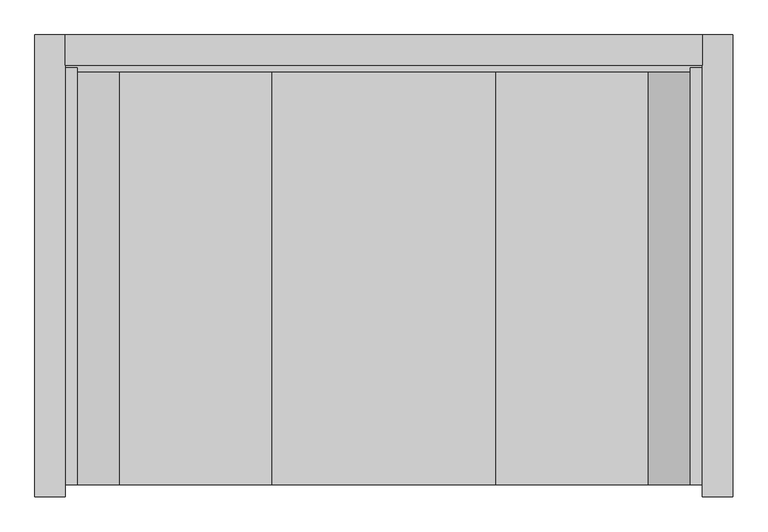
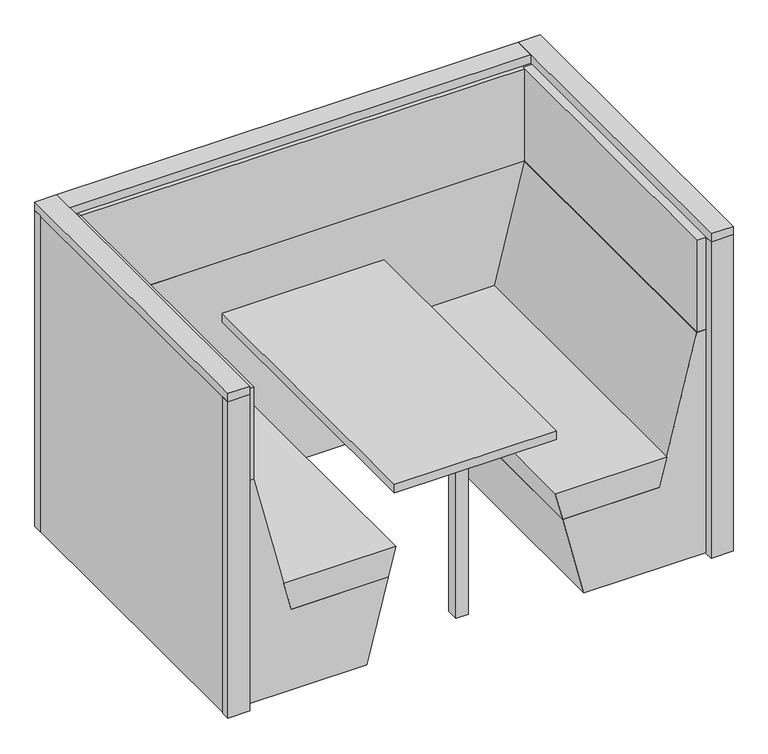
"""IFC4 building model written with IfcOpenShell, lengths in millimetres: furniture geometry, Furniture_WorkPod_Spacestor_RailwayCarriage : Banquette."""

from ifc_helpers import new_model, si_unit, point, frame, frame_2d, origin, origin_with_axes, place, context, project, spatial, polyline, circle_curve, trimmed, segment, composite_curve, outline, extrude, source, transform, mapped, element, save


def furniture_c9d6e980(model_context):
    return source(origin(), model_context, "Body", "SweptSolid", [
        extrude(outline(composite_curve([segment(trimmed(circle_curve(frame_2d((988.5, -1002.0)), 15.0), [point((973.5, -1002.0))], [point((1003.5, -1002.0))], False, "CARTESIAN"), True, "CONTINUOUS"), segment(trimmed(circle_curve(frame_2d((988.5, -1002.0)), 15.0), [point((1003.5, -1002.0))], [point((973.5, -1002.0))], False, "CARTESIAN"), True, "CONTINUOUS")], self_intersect=False)), origin_with_axes(), (0.0, 0.0, 1.0), 15.0),
        extrude(outline(composite_curve([segment(trimmed(circle_curve(frame_2d((-988.5, -1002.0)), 15.0), [point((-1003.5, -1002.0))], [point((-973.5, -1002.0))], False, "CARTESIAN"), True, "CONTINUOUS"), segment(trimmed(circle_curve(frame_2d((-988.5, -1002.0)), 15.0), [point((-973.5, -1002.0))], [point((-1003.5, -1002.0))], False, "CARTESIAN"), True, "CONTINUOUS")], self_intersect=False)), origin_with_axes(), (0.0, 0.0, 1.0), 15.0),
        extrude(outline(composite_curve([segment(trimmed(circle_curve(frame_2d((988.5, -167.0)), 15.0), [point((973.5, -167.0))], [point((1003.5, -167.0))], False, "CARTESIAN"), True, "CONTINUOUS"), segment(trimmed(circle_curve(frame_2d((988.5, -167.0)), 15.0), [point((1003.5, -167.0))], [point((973.5, -167.0))], False, "CARTESIAN"), True, "CONTINUOUS")], self_intersect=False)), origin_with_axes(), (0.0, 0.0, 1.0), 15.0),
        extrude(outline(composite_curve([segment(trimmed(circle_curve(frame_2d((-988.5, -167.0)), 15.0), [point((-1003.5, -167.0))], [point((-973.5, -167.0))], False, "CARTESIAN"), True, "CONTINUOUS"), segment(trimmed(circle_curve(frame_2d((-988.5, -167.0)), 15.0), [point((-973.5, -167.0))], [point((-1003.5, -167.0))], False, "CARTESIAN"), True, "CONTINUOUS")], self_intersect=False)), origin_with_axes(), (0.0, 0.0, 1.0), 15.0),
        extrude(outline(polyline([(-940.0, 61.0), (-1030.0, 61.0), (-1030.0, 97.0), (-940.0, 97.0), (-940.0, 61.0)])), frame((0.0, 0.0, 3.0), z_axis=(0.0, 0.0, 1.0), x_axis=(1.0, 0.0, 0.0)), (0.0, 0.0, 1.0), 1364.0),
        extrude(outline(polyline([(1030.0, 61.0), (940.0, 61.0), (940.0, 97.0), (1030.0, 97.0), (1030.0, 61.0)])), frame((0.0, 0.0, 3.0), z_axis=(0.0, 0.0, 1.0), x_axis=(1.0, 0.0, 0.0)), (0.0, 0.0, 1.0), 1364.0),
        extrude(outline(polyline([(-940.0, -1266.0), (-1030.0, -1266.0), (-1030.0, -1230.0), (-940.0, -1230.0), (-940.0, -1266.0)])), frame((0.0, 0.0, 3.0), z_axis=(0.0, 0.0, 1.0), x_axis=(1.0, 0.0, 0.0)), (0.0, 0.0, 1.0), 1364.0),
        extrude(outline(polyline([(1030.0, -1266.0), (940.0, -1266.0), (940.0, -1230.0), (1030.0, -1230.0), (1030.0, -1266.0)])), frame((0.0, 0.0, 3.0), z_axis=(0.0, 0.0, 1.0), x_axis=(1.0, 0.0, 0.0)), (0.0, 0.0, 1.0), 1364.0),
        extrude(outline(polyline([(-904.5, -1230.0), (-966.5, -1230.0), (-966.5, 0.0), (-904.5, 0.0), (-904.5, -1230.0)])), frame((0.0, 0.0, 969.0), z_axis=(0.0, 0.0, 1.0), x_axis=(1.0, 0.0, 0.0)), (0.0, 0.0, 1.0), 398.0),
        extrude(outline(polyline([(966.5, -1230.0), (904.5, -1230.0), (904.5, 0.0), (966.5, 0.0), (966.5, -1230.0)])), frame((0.0, 0.0, 969.0), z_axis=(0.0, 0.0, 1.0), x_axis=(1.0, 0.0, 0.0)), (0.0, 0.0, 1.0), 398.0),
        extrude(outline(polyline([(354.0, -750.5348655), (354.0, -355.6348655), (475.0, -325.4661771), (475.0, -780.6245423), (354.0, -750.5348655)])), frame((0.0, -1230.0, 0.0), z_axis=(0.0, 1.0, 0.0), x_axis=(0.0, 0.0, 1.0)), (0.0, 0.0, 1.0), 1230.0),
        extrude(outline(polyline([(354.0, 750.5348655), (475.0, 780.6245423), (475.0, 325.4661771), (354.0, 355.6348655), (354.0, 750.5348655)])), frame((0.0, -1230.0, 0.0), z_axis=(0.0, 1.0, 0.0), x_axis=(0.0, 0.0, 1.0)), (0.0, 0.0, 1.0), 1230.0),
        extrude(outline(polyline([(969.0, -903.47), (969.0, -967.0), (6.0, -967.0), (6.0, -442.4010105), (354.0, -355.6348655), (354.0, -750.5348655), (969.0, -903.47)])), frame((0.0, -1230.0, 0.0), z_axis=(0.0, 1.0, 0.0), x_axis=(0.0, 0.0, 1.0)), (0.0, 0.0, 1.0), 1230.0),
        extrude(outline(polyline([(969.0, 903.47), (354.0, 750.5348655), (354.0, 355.6348655), (6.0, 442.4010105), (6.0, 967.0), (969.0, 967.0), (969.0, 903.47)])), frame((0.0, -1230.0, 0.0), z_axis=(0.0, 1.0, 0.0), x_axis=(0.0, 0.0, 1.0)), (0.0, 0.0, 1.0), 1230.0),
        extrude(outline(polyline([(25.0, -1085.0), (25.0, -1135.0), (-25.0, -1135.0), (-25.0, -1085.0), (25.0, -1085.0)])), frame((0.0, 0.0, 1.5), z_axis=(0.0, 0.0, 1.0), x_axis=(1.0, 0.0, 0.0)), (0.0, 0.0, 1.0), 705.0),
        extrude(outline(polyline([(330.0, 0.0), (330.0, -1230.0), (-330.0, -1230.0), (-330.0, 0.0), (330.0, 0.0)])), frame((0.0, 0.0, 708.0), z_axis=(0.0, 0.0, 1.0), x_axis=(1.0, 0.0, 0.0)), (0.0, 0.0, 1.0), 36.0),
        extrude(outline(polyline([(940.0, 97.0), (940.0, 7.0), (-940.0, 7.0), (-940.0, 97.0), (940.0, 97.0)])), frame((0.0, 0.0, 1367.0), z_axis=(0.0, 0.0, 1.0), x_axis=(1.0, 0.0, 0.0)), (0.0, 0.0, 1.0), 36.0),
        extrude(outline(polyline([(1030.0, -1266.0), (940.0, -1266.0), (940.0, 97.0), (1030.0, 97.0), (1030.0, -1266.0)])), frame((0.0, 0.0, 1367.0), z_axis=(0.0, 0.0, 1.0), x_axis=(1.0, 0.0, 0.0)), (0.0, 0.0, 1.0), 36.0),
        extrude(outline(polyline([(-940.0, -1266.0), (-1030.0, -1266.0), (-1030.0, 97.0), (-940.0, 97.0), (-940.0, -1266.0)])), frame((0.0, 0.0, 1367.0), z_axis=(0.0, 0.0, 1.0), x_axis=(1.0, 0.0, 0.0)), (0.0, 0.0, 1.0), 36.0),
        extrude(outline(polyline([(940.0, 61.0), (-940.0, 61.0), (-940.0, 79.0), (940.0, 79.0), (940.0, 61.0)])), frame((0.0, 0.0, 3.0), z_axis=(0.0, 0.0, 1.0), x_axis=(1.0, 0.0, 0.0)), (0.0, 0.0, 1.0), 1364.0),
        extrude(outline(polyline([(-967.5, 6.0), (967.5, 6.0), (967.5, -12.0), (-967.5, -12.0), (-967.5, 6.0)])), frame((0.0, 0.0, 3.0), z_axis=(0.0, 0.0, 1.0), x_axis=(1.0, 0.0, 0.0)), (0.0, 0.0, 1.0), 966.0),
        extrude(outline(polyline([(-967.5, 20.0), (967.5, 20.0), (967.5, -12.0), (-967.5, -12.0), (-967.5, 20.0)])), frame((0.0, 0.0, 969.0), z_axis=(0.0, 0.0, 1.0), x_axis=(1.0, 0.0, 0.0)), (0.0, 0.0, 1.0), 398.0),
        extrude(outline(polyline([(-1010.0, -1230.0), (-1028.0, -1230.0), (-1028.0, 61.0), (-1010.0, 61.0), (-1010.0, -1230.0)])), frame((0.0, 0.0, 3.0), z_axis=(0.0, 0.0, 1.0), x_axis=(1.0, 0.0, 0.0)), (0.0, 0.0, 1.0), 1364.0),
        extrude(outline(polyline([(1028.0, -1230.0), (1010.0, -1230.0), (1010.0, 61.0), (1028.0, 61.0), (1028.0, -1230.0)])), frame((0.0, 0.0, 3.0), z_axis=(0.0, 0.0, 1.0), x_axis=(1.0, 0.0, 0.0)), (0.0, 0.0, 1.0), 1364.0),
    ])


if __name__ == "__main__":
    model = new_model("IFC4")
    model_context = context("Model", 3, world=origin())
    ifc_project = project(units=[si_unit("LENGTHUNIT", "METRE", prefix="MILLI")], contexts=[model_context])
    site = spatial("IfcSite", under=ifc_project)
    building = spatial("IfcBuilding", under=site)
    placement = place(None, origin())
    furniture_shape = furniture_c9d6e980(model_context)
    element("IfcFurniture", 1, ObjectType="Furniture_WorkPod_Spacestor_RailwayCarriage : Banquette", at=placement, inside=building, context=model_context, shape_type="MappedRepresentation", body=[
        mapped(furniture_shape, transform((0.0, 0.0, 0.0), x_axis=(1.0, 0.0, 0.0), y_axis=(0.0, 1.0, 0.0), z_axis=(0.0, 0.0, 1.0))),
    ])
    save(model, "model.ifc")
